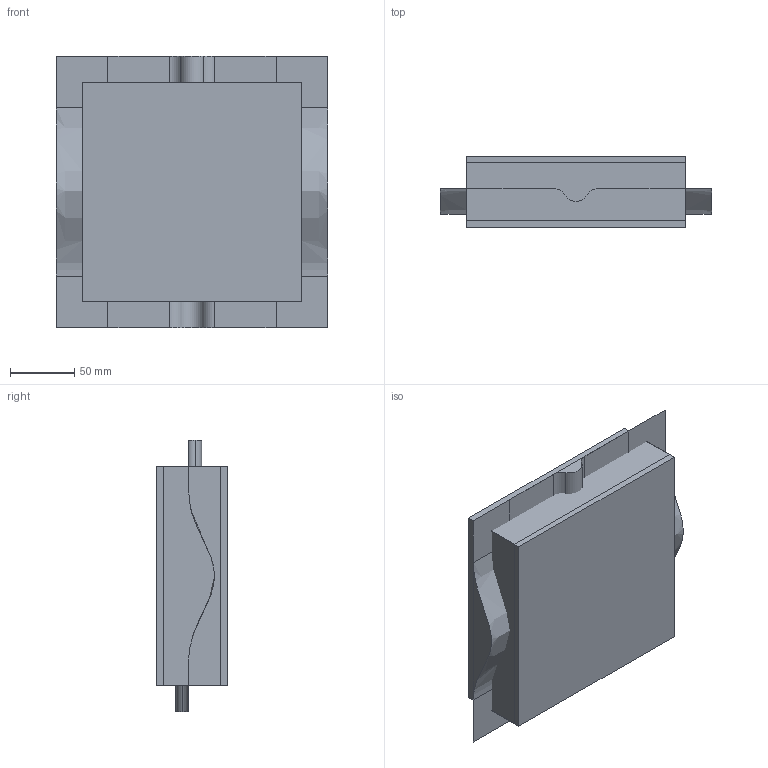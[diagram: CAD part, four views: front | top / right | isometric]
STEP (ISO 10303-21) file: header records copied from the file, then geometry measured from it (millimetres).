
FILE_DESCRIPTION(('CATIA V5 STEP Exchange'),'2;1');
FILE_NAME('C:\_Andres\UNIVERSIDAD\IQS\ASIGNATURAS\DAO\EXF\EXF-16172c\2inicio\Sanz_Alvarez_Ej02_v31.stp','2017-03-05T15:45:38+00:00',('none'),('none'),'CATIA Version 5-6 Release 2014 SP1 HF18','CATIA V5 STEP AP203','none');
FILE_SCHEMA(('CONFIG_CONTROL_DESIGN'));
Length unit declared in the file: millimetre
Products named in the file (1): Sanz_Alvarez_Ej02_v31
Bounding box: 211 x 55 x 211 mm (x, y, z)
Surface area: 289986.9 mm2
Topology: 3 solids, 10 shells, 72 faces, 205 edges, 150 vertices
Faces by surface type: bspline 32, plane 32, cylinder 6, extrusion 2
Entity records: 5750 total; most frequent: CARTESIAN_POINT 4433, ORIENTED_EDGE 288, DIRECTION 151, EDGE_CURVE 132, VERTEX_POINT 84, VECTOR 77, LINE 75, ADVANCED_FACE 72
